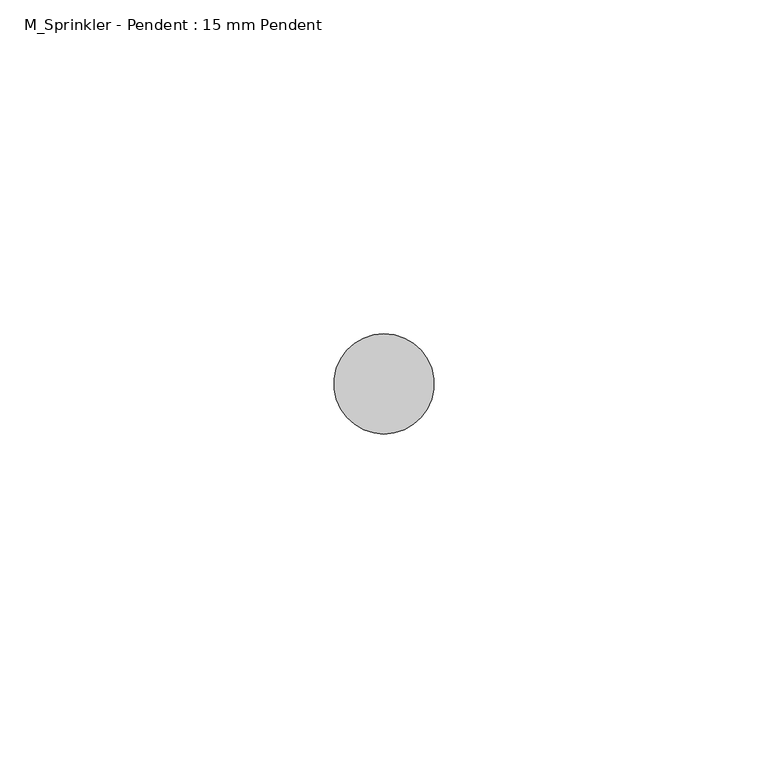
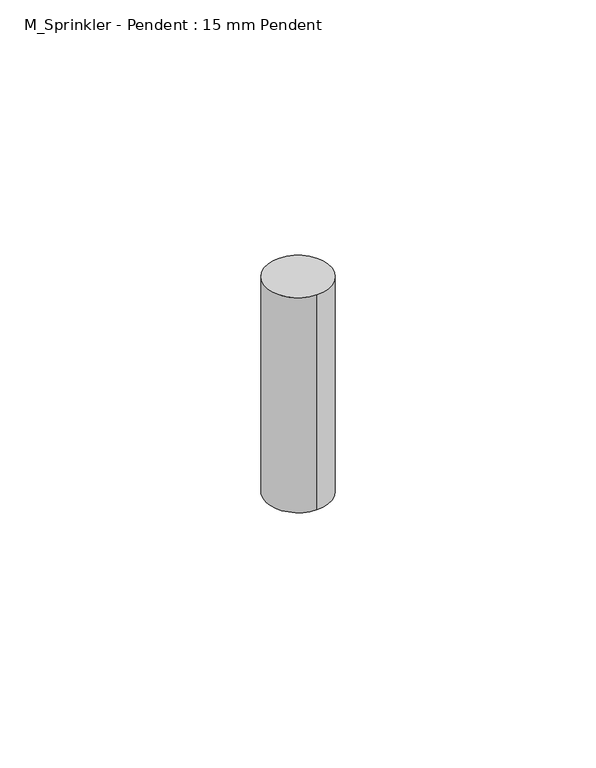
"""IFC4 building model written with IfcOpenShell, lengths in millimetres: fire suppression terminal geometry, M_Sprinkler - Pendent : 15 mm Pendent."""

from ifc_helpers import new_model, si_unit, point, frame, origin, origin_2d, place, context, project, spatial, circle_curve, trimmed, segment, composite_curve, outline, extrude, source, transform, mapped, element, save


def m_sprinkler_pendent_15_mm_pendent_06fcbd8e(model_context):
    return source(origin(), model_context, "Body", "SweptSolid", [
        extrude(outline(composite_curve([segment(trimmed(circle_curve(origin_2d(), 7.5), [point((0.0, 7.5))], [point((0.0, -7.5))], False, "CARTESIAN"), True, "CONTINUOUS"), segment(trimmed(circle_curve(origin_2d(), 7.5), [point((0.0, -7.5))], [point((0.0, 7.5))], False, "CARTESIAN"), True, "CONTINUOUS")], self_intersect=False)), frame((0.0, 0.0, -53.0), z_axis=(0.0, 0.0, 1.0), x_axis=(1.0, 0.0, 0.0)), (0.0, 0.0, 1.0), 53.0),
    ])


if __name__ == "__main__":
    model = new_model("IFC4")
    model_context = context("Model", 3, world=origin())
    ifc_project = project(units=[si_unit("LENGTHUNIT", "METRE", prefix="MILLI")], contexts=[model_context])
    site = spatial("IfcSite", under=ifc_project)
    building = spatial("IfcBuilding", under=site)
    placement = place(None, origin())
    m_sprinkler_pendent_15_mm_pendent_shape = m_sprinkler_pendent_15_mm_pendent_06fcbd8e(model_context)
    element("IfcFireSuppressionTerminal", 1, ObjectType="M_Sprinkler - Pendent : 15 mm Pendent", at=placement, inside=building, context=model_context, shape_type="MappedRepresentation", body=[
        mapped(m_sprinkler_pendent_15_mm_pendent_shape, transform((0.0, 0.0, 0.0), x_axis=(1.0, 0.0, 0.0), y_axis=(0.0, 1.0, 0.0), z_axis=(0.0, 0.0, 1.0))),
    ])
    save(model, "model.ifc")
